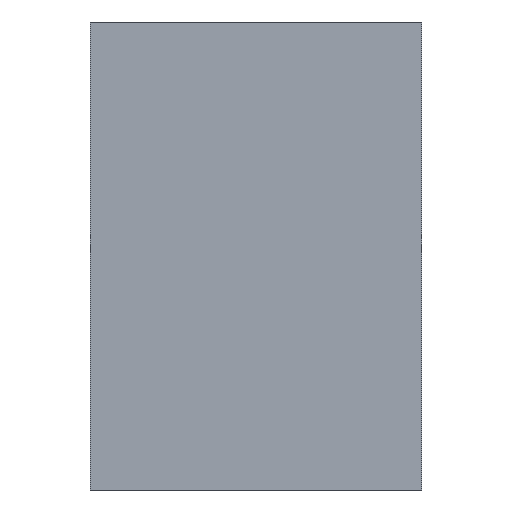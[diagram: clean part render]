
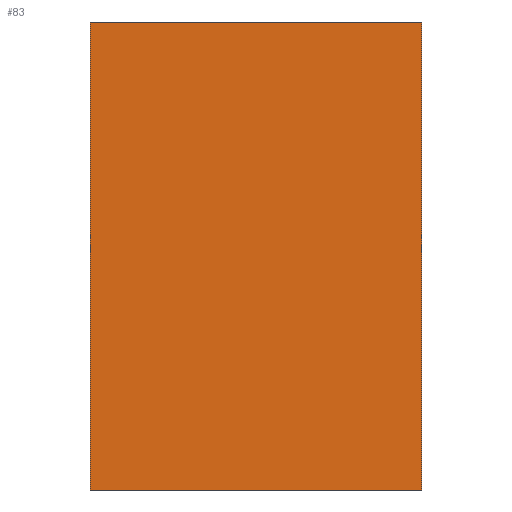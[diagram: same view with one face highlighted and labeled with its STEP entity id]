
A CAD part, left-side view. The second image highlights one B-rep face of the part: STEP entity #83.
In plain terms, the highlighted planar face has unit normal (-1, 0, 0) as drawn and (1, 0, 0) by its records, which use the part's own axes.
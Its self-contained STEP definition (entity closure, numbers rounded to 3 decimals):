
#77=FACE_OUTER_BOUND('',#304,.T.);
#83=ADVANCED_FACE('',(#77),#134,.T.);
#134=PLANE('',#720);
#150=LINE('',#1033,#162);
#153=LINE('',#1049,#165);
#157=LINE('',#1065,#169);
#160=LINE('',#1075,#172);
#162=VECTOR('',#815,1.);
#165=VECTOR('',#830,1.);
#169=VECTOR('',#844,1.);
#172=VECTOR('',#855,1.);
#304=EDGE_LOOP('',(#425,#426,#427,#428));
#425=ORIENTED_EDGE('',*,*,#604,.T.);
#426=ORIENTED_EDGE('',*,*,#599,.T.);
#427=ORIENTED_EDGE('',*,*,#583,.T.);
#428=ORIENTED_EDGE('',*,*,#591,.F.);
#518=VERTEX_POINT('',#1031);
#520=VERTEX_POINT('',#1034);
#527=VERTEX_POINT('',#1050);
#534=VERTEX_POINT('',#1066);
#583=EDGE_CURVE('',#520,#518,#150,.T.);
#591=EDGE_CURVE('',#527,#518,#153,.T.);
#599=EDGE_CURVE('',#534,#520,#157,.T.);
#604=EDGE_CURVE('',#527,#534,#160,.T.);
#720=AXIS2_PLACEMENT_3D('',#1077,#858,#859);
#815=DIRECTION('',(0.,-1.,0.));
#830=DIRECTION('',(0.,0.,1.));
#844=DIRECTION('',(0.,0.,1.));
#855=DIRECTION('',(0.,1.,0.));
#858=DIRECTION('',(1.,0.,0.));
#859=DIRECTION('',(0.,0.,-1.));
#1031=CARTESIAN_POINT('',(70.,-56.5,0.));
#1033=CARTESIAN_POINT('',(70.,0.,0.));
#1034=CARTESIAN_POINT('',(70.,56.5,0.));
#1049=CARTESIAN_POINT('',(70.,-56.5,-80.));
#1050=CARTESIAN_POINT('',(70.,-56.5,-80.));
#1065=CARTESIAN_POINT('',(70.,56.5,-80.));
#1066=CARTESIAN_POINT('',(70.,56.5,-80.));
#1075=CARTESIAN_POINT('',(70.,0.,-80.));
#1077=CARTESIAN_POINT('',(70.,0.,-80.));
